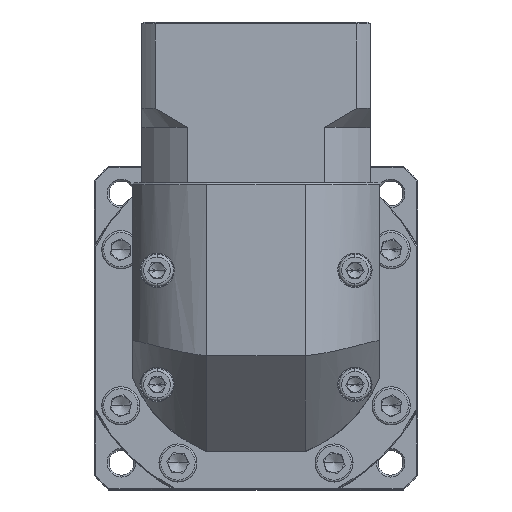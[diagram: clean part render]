
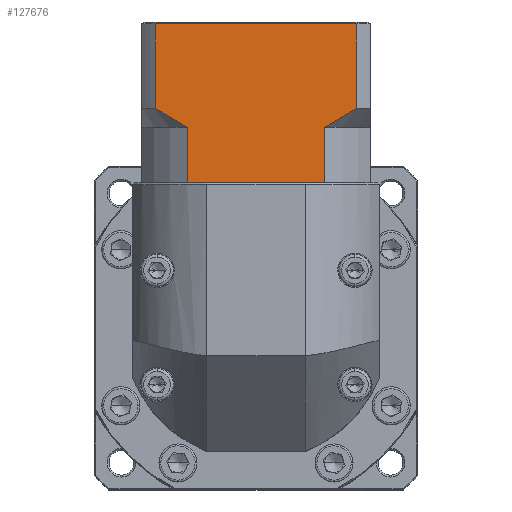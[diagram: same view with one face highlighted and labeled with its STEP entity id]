
A CAD part, top view. The second image highlights one B-rep face of the part: STEP entity #127676.
In plain terms, the highlighted planar face has unit normal (0, 0, 1).
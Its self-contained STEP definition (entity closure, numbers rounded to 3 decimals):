
#2388 = CARTESIAN_POINT ( 'NONE',  ( -67.156, 69.741, 48.506 ) ) ;
#4593 = LINE ( 'NONE', #67713, #123107 ) ;
#4660 = VECTOR ( 'NONE', #91864, 1000. ) ;
#5110 = CARTESIAN_POINT ( 'NONE',  ( -108.902, 72.968, 48.506 ) ) ;
#5944 = VECTOR ( 'NONE', #117259, 1000. ) ;
#6360 = CARTESIAN_POINT ( 'NONE',  ( -68.147, 55.241, 48.506 ) ) ;
#6483 = DIRECTION ( 'NONE',  ( 1., 0., 0. ) ) ;
#7586 = EDGE_CURVE ( 'NONE', #86702, #17488, #106847, .T. ) ;
#12176 = AXIS2_PLACEMENT_3D ( 'NONE', #72569, #41190, #81832 ) ;
#12408 = CARTESIAN_POINT ( 'NONE',  ( -67.156, 69.741, 48.506 ) ) ;
#13056 = DIRECTION ( 'NONE',  ( 0., 1., 0. ) ) ;
#13075 = VECTOR ( 'NONE', #13056, 1000. ) ;
#14746 = EDGE_CURVE ( 'NONE', #124321, #84522, #4593, .T. ) ;
#14957 = LINE ( 'NONE', #98353, #125580 ) ;
#16361 = VECTOR ( 'NONE', #33109, 1000. ) ;
#17052 = CARTESIAN_POINT ( 'NONE',  ( -115.183, 96.941, 48.506 ) ) ;
#17488 = VERTEX_POINT ( 'NONE', #6360 ) ;
#19470 = ORIENTED_EDGE ( 'NONE', *, *, #63578, .F. ) ;
#20498 = FACE_OUTER_BOUND ( 'NONE', #37229, .T. ) ;
#23221 = B_SPLINE_CURVE_WITH_KNOTS ( 'NONE', 3,
 ( #105750, #107075, #5110, #87146, #26635, #97342 ),
 .UNSPECIFIED., .F., .F.,
 ( 4, 2, 4 ),
 ( 0.052, 0.057, 0.062 ),
 .UNSPECIFIED. ) ;
#26635 = CARTESIAN_POINT ( 'NONE',  ( -104.663, 70.489, 48.506 ) ) ;
#27595 = VERTEX_POINT ( 'NONE', #53217 ) ;
#33109 = DIRECTION ( 'NONE',  ( 1., 0., 0. ) ) ;
#34754 = CARTESIAN_POINT ( 'NONE',  ( -111.641, 96.941, 48.506 ) ) ;
#37229 = EDGE_LOOP ( 'NONE', ( #54748, #87315, #19470, #68210, #57010, #130660, #108899, #108914, #46887, #96236 ) ) ;
#37748 = LINE ( 'NONE', #112664, #4660 ) ;
#38300 = DIRECTION ( 'NONE',  ( 1., 0., 0. ) ) ;
#41190 = DIRECTION ( 'NONE',  ( 0., 0., -1. ) ) ;
#41660 = CARTESIAN_POINT ( 'NONE',  ( -103.211, 69.741, 48.506 ) ) ;
#42341 = CARTESIAN_POINT ( 'NONE',  ( -60.089, 73.84, 48.506 ) ) ;
#43002 = LINE ( 'NONE', #41660, #13075 ) ;
#44635 = CARTESIAN_POINT ( 'NONE',  ( -102.22, 55.241, 48.506 ) ) ;
#46887 = ORIENTED_EDGE ( 'NONE', *, *, #14746, .F. ) ;
#48867 = EDGE_CURVE ( 'NONE', #17488, #84522, #70140, .T. ) ;
#52667 = EDGE_CURVE ( 'NONE', #124321, #82619, #65573, .T. ) ;
#53217 = CARTESIAN_POINT ( 'NONE',  ( -103.211, 69.741, 48.506 ) ) ;
#53510 = EDGE_CURVE ( 'NONE', #94925, #27595, #23221, .T. ) ;
#54748 = ORIENTED_EDGE ( 'NONE', *, *, #130202, .F. ) ;
#56899 = CARTESIAN_POINT ( 'NONE',  ( -58.726, 74.741, 48.506 ) ) ;
#57010 = ORIENTED_EDGE ( 'NONE', *, *, #119960, .F. ) ;
#61502 = PLANE ( 'NONE',  #12176 ) ;
#62851 = CARTESIAN_POINT ( 'NONE',  ( -111.641, 74.741, 48.506 ) ) ;
#63578 = EDGE_CURVE ( 'NONE', #94925, #121027, #14957, .T. ) ;
#64237 = VERTEX_POINT ( 'NONE', #85292 ) ;
#65573 = B_SPLINE_CURVE_WITH_KNOTS ( 'NONE', 3,
 ( #12408, #124121, #123675, #84270, #42341, #74531 ),
 .UNSPECIFIED., .F., .F.,
 ( 4, 2, 4 ),
 ( 0.1, 0.104, 0.109 ),
 .UNSPECIFIED. ) ;
#67713 = CARTESIAN_POINT ( 'NONE',  ( -67.156, 69.741, 48.506 ) ) ;
#67951 = CARTESIAN_POINT ( 'NONE',  ( -115.183, 55.241, 48.506 ) ) ;
#68071 = VERTEX_POINT ( 'NONE', #120293 ) ;
#68210 = ORIENTED_EDGE ( 'NONE', *, *, #53510, .T. ) ;
#68308 = DIRECTION ( 'NONE',  ( 0., 1., 0. ) ) ;
#69120 = CARTESIAN_POINT ( 'NONE',  ( -67.156, 55.241, 48.506 ) ) ;
#69954 = LINE ( 'NONE', #125946, #16361 ) ;
#70140 = LINE ( 'NONE', #67951, #100235 ) ;
#72569 = CARTESIAN_POINT ( 'NONE',  ( -115.183, 97.441, 48.506 ) ) ;
#74531 = CARTESIAN_POINT ( 'NONE',  ( -58.726, 74.741, 48.506 ) ) ;
#79941 = VECTOR ( 'NONE', #6483, 1000. ) ;
#81832 = DIRECTION ( 'NONE',  ( 0., 1., 0. ) ) ;
#82619 = VERTEX_POINT ( 'NONE', #56899 ) ;
#84270 = CARTESIAN_POINT ( 'NONE',  ( -61.469, 72.966, 48.506 ) ) ;
#84522 = VERTEX_POINT ( 'NONE', #69120 ) ;
#85292 = CARTESIAN_POINT ( 'NONE',  ( -58.726, 96.941, 48.506 ) ) ;
#86702 = VERTEX_POINT ( 'NONE', #44635 ) ;
#87146 = CARTESIAN_POINT ( 'NONE',  ( -106.095, 71.292, 48.506 ) ) ;
#87315 = ORIENTED_EDGE ( 'NONE', *, *, #128285, .T. ) ;
#91864 = DIRECTION ( 'NONE',  ( 0., -1., 0. ) ) ;
#92841 = EDGE_CURVE ( 'NONE', #68071, #86702, #69954, .T. ) ;
#94925 = VERTEX_POINT ( 'NONE', #62851 ) ;
#96236 = ORIENTED_EDGE ( 'NONE', *, *, #52667, .T. ) ;
#97342 = CARTESIAN_POINT ( 'NONE',  ( -103.211, 69.741, 48.506 ) ) ;
#98353 = CARTESIAN_POINT ( 'NONE',  ( -111.641, 69.741, 48.506 ) ) ;
#100235 = VECTOR ( 'NONE', #38300, 1000. ) ;
#105750 = CARTESIAN_POINT ( 'NONE',  ( -111.641, 74.741, 48.506 ) ) ;
#106847 = LINE ( 'NONE', #116478, #79941 ) ;
#107075 = CARTESIAN_POINT ( 'NONE',  ( -110.281, 73.841, 48.506 ) ) ;
#108899 = ORIENTED_EDGE ( 'NONE', *, *, #7586, .T. ) ;
#108914 = ORIENTED_EDGE ( 'NONE', *, *, #48867, .T. ) ;
#109183 = DIRECTION ( 'NONE',  ( 0., -1., 0. ) ) ;
#112664 = CARTESIAN_POINT ( 'NONE',  ( -58.726, 69.741, 48.506 ) ) ;
#115028 = LINE ( 'NONE', #17052, #5944 ) ;
#116478 = CARTESIAN_POINT ( 'NONE',  ( -115.183, 55.241, 48.506 ) ) ;
#117259 = DIRECTION ( 'NONE',  ( -1., 0., 0. ) ) ;
#119960 = EDGE_CURVE ( 'NONE', #68071, #27595, #43002, .T. ) ;
#120293 = CARTESIAN_POINT ( 'NONE',  ( -103.211, 55.241, 48.506 ) ) ;
#121027 = VERTEX_POINT ( 'NONE', #34754 ) ;
#123107 = VECTOR ( 'NONE', #109183, 1000. ) ;
#123675 = CARTESIAN_POINT ( 'NONE',  ( -64.274, 71.292, 48.506 ) ) ;
#124121 = CARTESIAN_POINT ( 'NONE',  ( -65.699, 70.491, 48.506 ) ) ;
#124321 = VERTEX_POINT ( 'NONE', #2388 ) ;
#125580 = VECTOR ( 'NONE', #68308, 1000. ) ;
#125946 = CARTESIAN_POINT ( 'NONE',  ( -115.183, 55.241, 48.506 ) ) ;
#127676 = ADVANCED_FACE ( 'NONE', ( #20498 ), #61502, .F. ) ;
#128285 = EDGE_CURVE ( 'NONE', #64237, #121027, #115028, .T. ) ;
#130202 = EDGE_CURVE ( 'NONE', #64237, #82619, #37748, .T. ) ;
#130660 = ORIENTED_EDGE ( 'NONE', *, *, #92841, .T. ) ;
